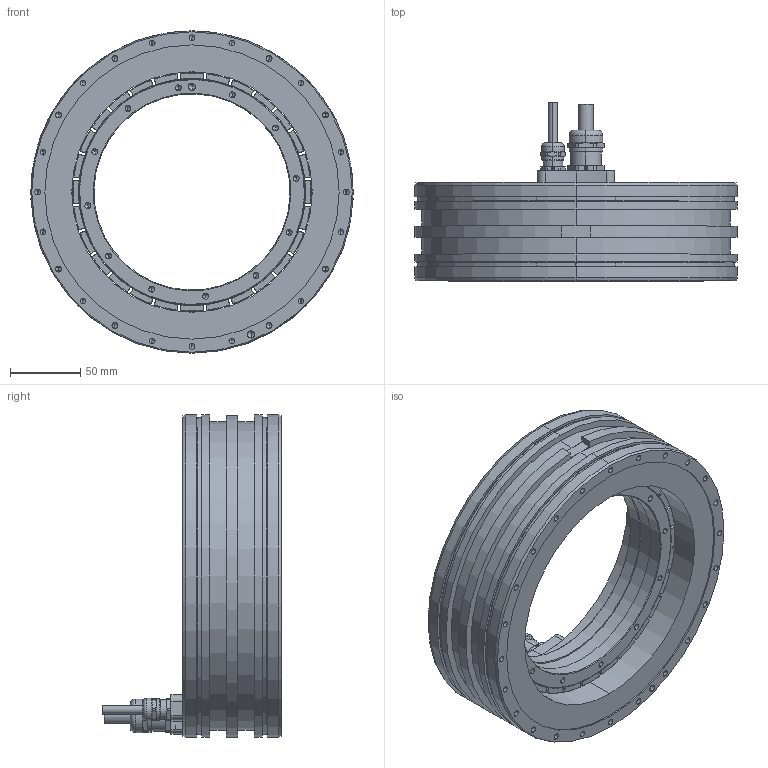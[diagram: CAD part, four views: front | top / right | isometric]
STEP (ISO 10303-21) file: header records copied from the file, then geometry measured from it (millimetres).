
FILE_DESCRIPTION (( 'STEP AP214' ), '1' );
FILE_NAME ('TORQUE KIT QMT LA 230-70-I-AX.STEP', '2025-09-08T14:09:38', ( '' ), ( '' ), 'SwSTEP 2.0', 'SolidWorks 2023', '' );
FILE_SCHEMA (( 'AUTOMOTIVE_DESIGN' ));
Length unit declared in the file: millimetre
Products named in the file (21): Cable Connection; Stator; Cable Clamp; Cable Gland; Cable; Screw; Housing-BO; Magnet; Resin; TORQUE KIT QMT LA 230-70-I-AX; Housing; Rotor Glued; Rotor Ring; Rotor; Cooling Ring
Assembly tree (47 placements, depth 6):
  TORQUE KIT QMT LA 230-70-I-AX
    Stator
      Stator
        Housing
          Housing-BO
            Cooling Ring
        Resin
        Cable Connection
          Cable Connection
          Cable
          Cable
      Cable Clamp
        Cable Clamp
        Cable Gland
        Cable Gland
      Screw  x2
    Rotor
      Rotor Glued
        Rotor Ring
        Magnet  x14
        Magnet  x14
Bounding box: 230 x 127.1 x 230 mm (x, y, z)
Volume: 1402303 mm3; surface area: 343899 mm2
Topology: 39 solids, 39 shells, 1709 faces, 3989 edges, 2224 vertices
Faces by surface type: cylinder 753, plane 304, sphere 280, cone 236, torus 136
Entity records: 33226 total; most frequent: CARTESIAN_POINT 4764, DIRECTION 4739, ORIENTED_EDGE 3966, EDGE_CURVE 1983, AXIS2_PLACEMENT_3D 1950, VERTEX_POINT 1247, EDGE_LOOP 1024, CIRCLE 1016
